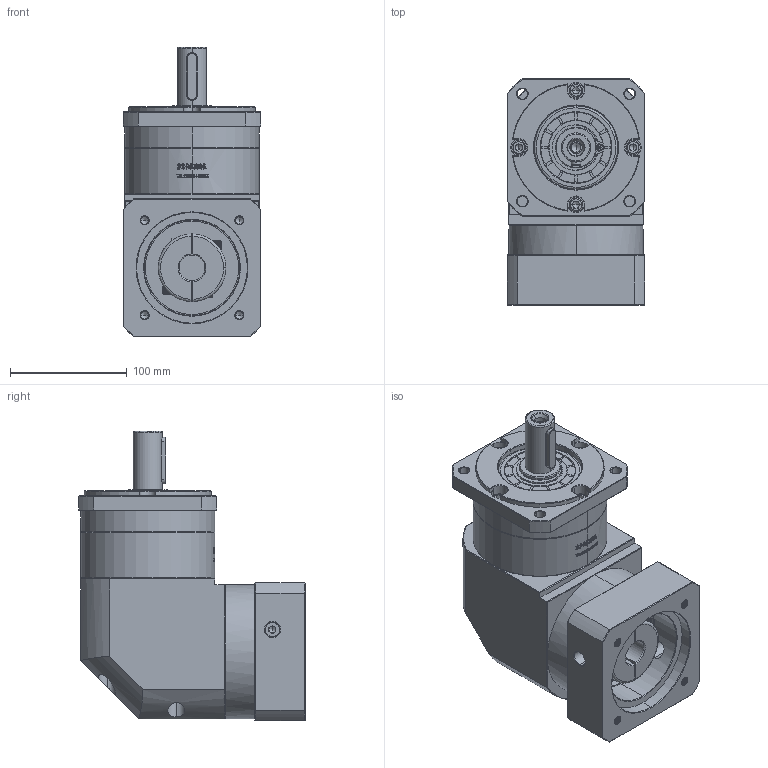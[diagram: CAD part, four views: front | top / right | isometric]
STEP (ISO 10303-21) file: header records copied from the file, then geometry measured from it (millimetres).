
FILE_DESCRIPTION (( 'STEP AP214' ), '1' );
FILE_NAME ('ZFR120A-D25-L1-22-95-115-M8.step', '2023-03-08T08:18:39', ( '' ), ( '' ), 'SwSTEP 2.0', 'SolidWorks 2016', '' );
FILE_SCHEMA (( 'AUTOMOTIVE_DESIGN' ));
Length unit declared in the file: millimetre
Products named in the file (1): ZFR120A-D25-L1-22-95-115-M8
Bounding box: 118 x 193.9 x 248 mm (x, y, z)
Volume: 2895573.6 mm3; surface area: 243847.3 mm2
Topology: 6 solids, 6 shells, 2871 faces, 7670 edges, 4944 vertices
Faces by surface type: plane 1484, bspline 607, cylinder 434, cone 338, torus 8
Entity records: 157838 total; most frequent: CARTESIAN_POINT 60493, ORIENTED_EDGE 15280, DIRECTION 11111, EDGE_CURVE 7640, VERTEX_POINT 4944, LINE 4749, VECTOR 4749, AXIS2_PLACEMENT_3D 3181
